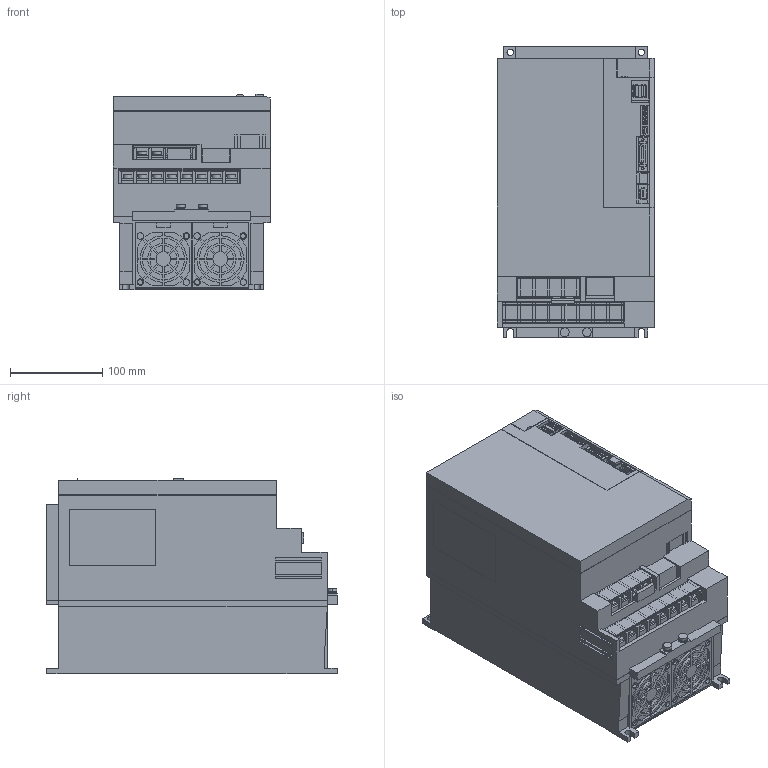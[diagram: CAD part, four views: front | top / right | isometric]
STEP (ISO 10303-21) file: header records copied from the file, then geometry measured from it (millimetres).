
FILE_DESCRIPTION (( 'STEP AP203' ), '1' );
FILE_NAME ('sgd7s_550a10a.STEP', '2015-09-18T08:31:30', ( '匠エンジニアリング山之内' ), ( 'TAKUMI-Engniaring' ), 'SwSTEP 2.0', 'SolidWorks 2006303', '' );
FILE_SCHEMA (( 'CONFIG_CONTROL_DESIGN' ));
Products named in the file (8): sgd7s_550a10a_cover3; sgd7s_550a10a_cover4; sgd7s_550a10a; sgd7s_550a10a_base; sgd7s_550a10a_cover; sgd7s_550a10a_cover2; sgd7s_550a10a_connector; sgd7s_550a10a_terminal
Assembly tree (8 placements, depth 2):
  sgd7s_550a10a
    sgd7s_550a10a_cover2  x2
    sgd7s_550a10a_terminal
    sgd7s_550a10a_base
    sgd7s_550a10a_connector
    sgd7s_550a10a_cover
    sgd7s_550a10a_cover3
    sgd7s_550a10a_cover4
Bounding box: 170.5 x 315 x 212.29 mm (x, y, z)
Volume: 8059931.3 mm3; surface area: 895594.6 mm2
Topology: 8 solids, 8 shells, 2081 faces, 5541 edges, 3672 vertices
Faces by surface type: plane 1743, cylinder 333, cone 4, sphere 1
Entity records: 64237 total; most frequent: CARTESIAN_POINT 11194, ORIENTED_EDGE 10974, DIRECTION 10309, EDGE_CURVE 5487, LINE 4807, VECTOR 4807, VERTEX_POINT 3636, AXIS2_PLACEMENT_3D 2751
